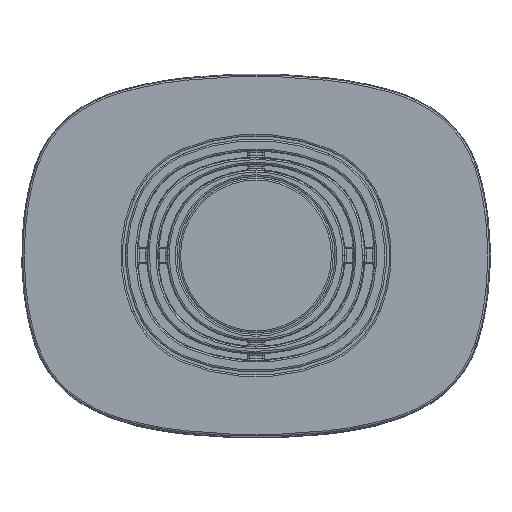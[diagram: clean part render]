
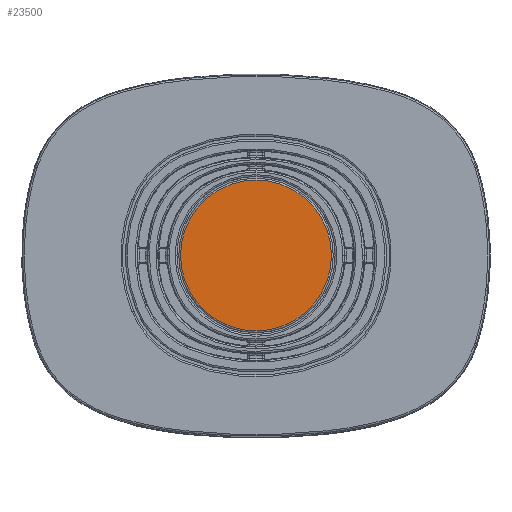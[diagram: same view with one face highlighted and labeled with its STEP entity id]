
A CAD part, top view. The second image highlights one B-rep face of the part: STEP entity #23500.
In plain terms, the highlighted planar face has unit normal (0, 0, 1).
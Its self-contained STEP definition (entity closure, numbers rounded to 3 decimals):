
#2232=CIRCLE('',#25557,86.2);
#5932=ORIENTED_EDGE('',*,*,#12215,.T.);
#12215=EDGE_CURVE('',#15478,#15478,#2232,.T.);
#15478=VERTEX_POINT('',#39709);
#20030=EDGE_LOOP('',(#5932));
#21582=FACE_BOUND('',#20030,.T.);
#22793=PLANE('',#25556);
#23500=ADVANCED_FACE('',(#21582),#22793,.T.);
#25556=AXIS2_PLACEMENT_3D('',#39707,#29508,#29509);
#25557=AXIS2_PLACEMENT_3D('',#39708,#29510,#29511);
#29508=DIRECTION('',(0.,0.,1.));
#29509=DIRECTION('',(1.,0.,0.));
#29510=DIRECTION('',(0.,0.,1.));
#29511=DIRECTION('',(1.,0.,0.));
#39707=CARTESIAN_POINT('',(-14.985,123.28,859.51));
#39708=CARTESIAN_POINT('',(0.,135.025,859.51));
#39709=CARTESIAN_POINT('',(86.2,135.025,859.51));
